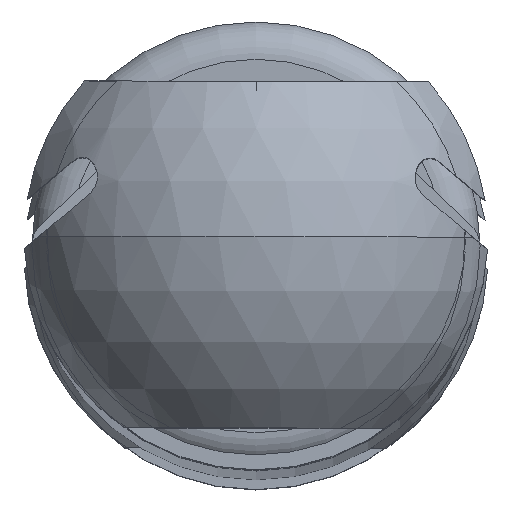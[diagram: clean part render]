
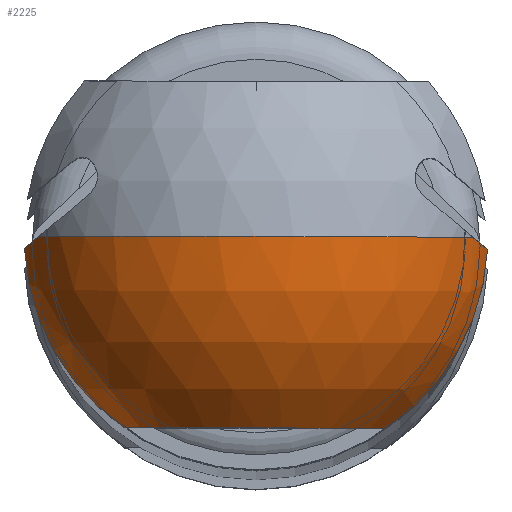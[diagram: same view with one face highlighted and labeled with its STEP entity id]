
A CAD part, top view. The second image highlights one B-rep face of the part: STEP entity #2225.
In plain terms, the highlighted spherical face has radius 8.25 mm.
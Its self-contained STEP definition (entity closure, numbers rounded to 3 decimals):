
#485 = CARTESIAN_POINT ( 'NONE',  ( -70., 0., 6.4 ) ) ;
#486 = DIRECTION ( 'NONE',  ( 0., 0., -1. ) ) ;
#487 = DIRECTION ( 'NONE',  ( 1., 0., 0. ) ) ;
#506 = CARTESIAN_POINT ( 'NONE',  ( -72.8, 0., 0. ) ) ;
#507 = DIRECTION ( 'NONE',  ( -1., 0., 0. ) ) ;
#508 = DIRECTION ( 'NONE',  ( 0., 0., -1. ) ) ;
#935 = CIRCLE ( 'NONE', #936, 5.206 ) ;
#936 = AXIS2_PLACEMENT_3D ( 'NONE', #485, #486, #487 ) ;
#942 = CIRCLE ( 'NONE', #944, 7.76 ) ;
#944 = AXIS2_PLACEMENT_3D ( 'NONE', #506, #507, #508 ) ;
#1240 = CARTESIAN_POINT ( 'NONE',  ( -70., 0., 0. ) ) ;
#1241 = DIRECTION ( 'NONE',  ( 0., 0., -1. ) ) ;
#1242 = DIRECTION ( 'NONE',  ( 0., -1., 0. ) ) ;
#1947 = CARTESIAN_POINT ( 'NONE',  ( -70., 2.999, -3.574 ) ) ;
#1973 = DIRECTION ( 'NONE',  ( -1., 0., 0. ) ) ;
#1992 = DIRECTION ( 'NONE',  ( 0., -0.643, 0.766 ) ) ;
#1993 = DIRECTION ( 'NONE',  ( 0., -0.766, -0.643 ) ) ;
#2004 = DIRECTION ( 'NONE',  ( 0., 0., -1. ) ) ;
#2006 = CARTESIAN_POINT ( 'NONE',  ( -72.8, 0., 0. ) ) ;
#2067 = EDGE_CURVE ( 'NONE', #3666, #3756, #3935, .T. ) ;
#2122 = EDGE_CURVE ( 'NONE', #3666, #3679, #4148, .T. ) ;
#2155 = EDGE_CURVE ( 'NONE', #3756, #3609, #4111, .T. ) ;
#2172 = EDGE_CURVE ( 'NONE', #3732, #3679, #4180, .T. ) ;
#2186 = EDGE_CURVE ( 'NONE', #3609, #3585, #4130, .T. ) ;
#2225 = ADVANCED_FACE ( 'NONE', ( #2325 ), #2330, .T. ) ;
#2325 = FACE_OUTER_BOUND ( 'NONE', #3748, .T. ) ;
#2330 = SPHERICAL_SURFACE ( 'NONE', #4263, 8.25 ) ;
#2724 = ORIENTED_EDGE ( 'NONE', *, *, #2172, .T. ) ;
#2725 = ORIENTED_EDGE ( 'NONE', *, *, #3017, .T. ) ;
#2726 = ORIENTED_EDGE ( 'NONE', *, *, #3002, .T. ) ;
#2729 = ORIENTED_EDGE ( 'NONE', *, *, #2155, .T. ) ;
#2733 = ORIENTED_EDGE ( 'NONE', *, *, #2067, .T. ) ;
#2734 = ORIENTED_EDGE ( 'NONE', *, *, #2122, .F. ) ;
#2736 = ORIENTED_EDGE ( 'NONE', *, *, #2186, .T. ) ;
#3002 = EDGE_CURVE ( 'NONE', #3585, #3606, #935, .T. ) ;
#3017 = EDGE_CURVE ( 'NONE', #3606, #3732, #942, .T. ) ;
#3202 = DIRECTION ( 'NONE',  ( 0., 0., 1. ) ) ;
#3212 = DIRECTION ( 'NONE',  ( 1., 0., 0. ) ) ;
#3223 = CARTESIAN_POINT ( 'NONE',  ( -70., 0., 0. ) ) ;
#3585 = VERTEX_POINT ( 'NONE', #4559 ) ;
#3606 = VERTEX_POINT ( 'NONE', #4570 ) ;
#3609 = VERTEX_POINT ( 'NONE', #4572 ) ;
#3666 = VERTEX_POINT ( 'NONE', #4603 ) ;
#3679 = VERTEX_POINT ( 'NONE', #4609 ) ;
#3732 = VERTEX_POINT ( 'NONE', #4635 ) ;
#3748 = EDGE_LOOP ( 'NONE', ( #2734, #2733, #2729, #2736, #2726, #2725, #2724 ) ) ;
#3756 = VERTEX_POINT ( 'NONE', #4647 ) ;
#3935 = CIRCLE ( 'NONE', #3953, 8.25 ) ;
#3953 = AXIS2_PLACEMENT_3D ( 'NONE', #3223, #3202, #3212 ) ;
#4003 = CARTESIAN_POINT ( 'NONE',  ( -70., -2.999, -3.574 ) ) ;
#4026 = DIRECTION ( 'NONE',  ( 0., 0.643, 0.766 ) ) ;
#4040 = CARTESIAN_POINT ( 'NONE',  ( -70., 0., 0. ) ) ;
#4042 = DIRECTION ( 'NONE',  ( -1., 0., 0. ) ) ;
#4043 = DIRECTION ( 'NONE',  ( 0., 0., -1. ) ) ;
#4056 = DIRECTION ( 'NONE',  ( 0., -0.766, 0.643 ) ) ;
#4111 = CIRCLE ( 'NONE', #4128, 6.804 ) ;
#4128 = AXIS2_PLACEMENT_3D ( 'NONE', #4003, #4026, #4056 ) ;
#4130 = CIRCLE ( 'NONE', #4145, 7.76 ) ;
#4131 = AXIS2_PLACEMENT_3D ( 'NONE', #4040, #4043, #4042 ) ;
#4145 = AXIS2_PLACEMENT_3D ( 'NONE', #2006, #1973, #2004 ) ;
#4148 = CIRCLE ( 'NONE', #4131, 8.25 ) ;
#4180 = CIRCLE ( 'NONE', #4181, 6.804 ) ;
#4181 = AXIS2_PLACEMENT_3D ( 'NONE', #1947, #1992, #1993 ) ;
#4263 = AXIS2_PLACEMENT_3D ( 'NONE', #1240, #1241, #1242 ) ;
#4559 = CARTESIAN_POINT ( 'NONE',  ( -72.8, -4.389, 6.4 ) ) ;
#4570 = CARTESIAN_POINT ( 'NONE',  ( -72.8, 4.389, 6.4 ) ) ;
#4572 = CARTESIAN_POINT ( 'NONE',  ( -72.8, -7.749, 0.412 ) ) ;
#4603 = CARTESIAN_POINT ( 'NONE',  ( -78.25, 0., 0. ) ) ;
#4609 = CARTESIAN_POINT ( 'NONE',  ( -73.921, 7.259, 0. ) ) ;
#4635 = CARTESIAN_POINT ( 'NONE',  ( -72.8, 7.749, 0.412 ) ) ;
#4647 = CARTESIAN_POINT ( 'NONE',  ( -73.921, -7.259, 0. ) ) ;
